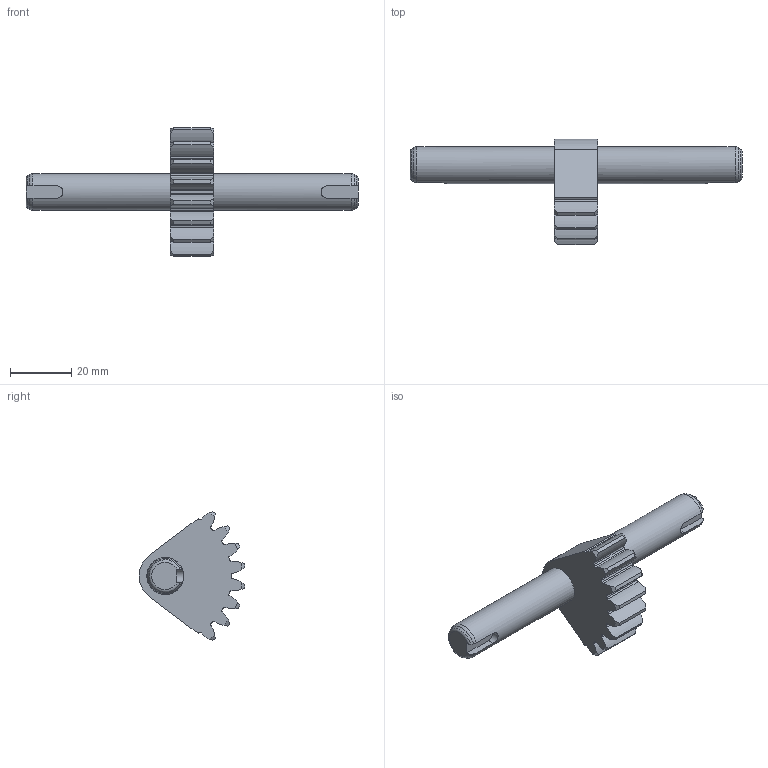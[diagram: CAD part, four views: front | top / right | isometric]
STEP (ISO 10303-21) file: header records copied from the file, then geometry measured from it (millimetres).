
FILE_DESCRIPTION(/* description */ (''),/* implementation_level */ '2;1');
FILE_NAME(/* name */ '',/* time_stamp */ '2024-07-29T13:44:16+09:00',/* author */ ('jhkim'),/* organization */ (''),/* preprocessor_version */ 'ST-DEVELOPER v20',/* originating_system */ 'Autodesk Inventor 2025',/* authorisation */ '');
FILE_SCHEMA (('AUTOMOTIVE_DESIGN { 1 0 10303 214 3 1 1 }'));
Length unit declared in the file: millimetre
Products named in the file (1): 피니언
Bounding box: 108 x 34.32 x 41.94 mm (x, y, z)
Volume: 21998.7 mm3; surface area: 7344.7 mm2
Topology: 1 solids, 1 shells, 88 faces, 252 edges, 168 vertices
Faces by surface type: cylinder 54, cone 18, plane 12, torus 4
Full cylindrical faces by diameter (mm): 12 x2
Entity records: 3075 total; most frequent: CARTESIAN_POINT 697, DIRECTION 510, ORIENTED_EDGE 504, EDGE_CURVE 252, AXIS2_PLACEMENT_3D 217, VERTEX_POINT 168, CIRCLE 128, EDGE_LOOP 90
